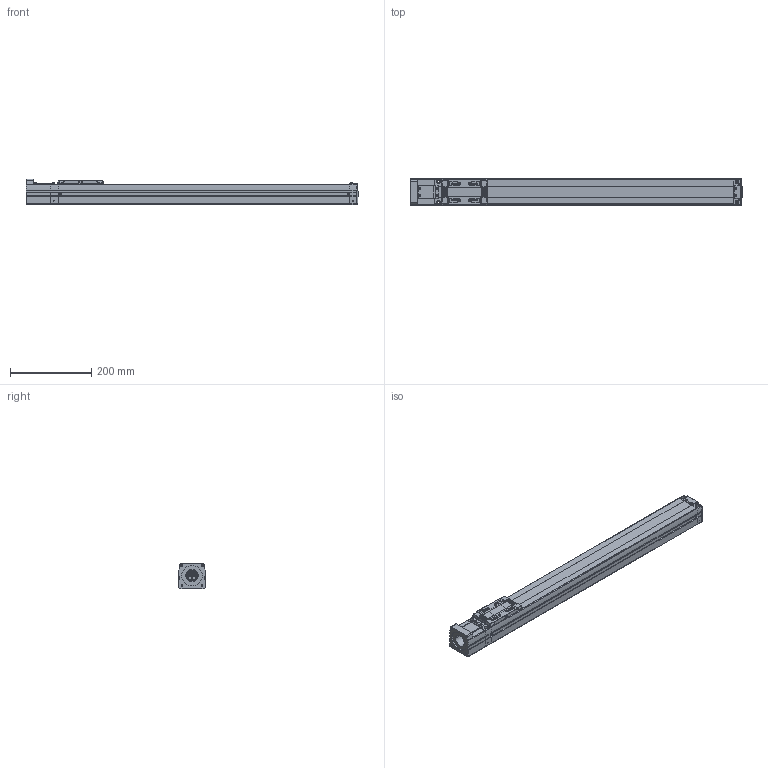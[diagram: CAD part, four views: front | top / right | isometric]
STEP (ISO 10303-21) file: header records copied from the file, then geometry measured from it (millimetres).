
FILE_DESCRIPTION(('STEP AP203'),'1');
FILE_NAME('Z:/Web/3D/SAN65/2012.ver/STP/600/SAN65ㅁㅁ-600S.stp','2014-06-13T06:42:22',(' '),(' '),'Spatial InterOp 3D',' ',' ');
FILE_SCHEMA(('CONFIG_CONTROL_DESIGN'));
Length unit declared in the file: millimetre
Products named in the file (56): 1; 2; 3; 4; 5; 6; 7; 8; 9; 10; 11; 12; 13; 14; 15; 16; 17; 18; 19; 20; 21; 22; 23; 24; 25; 26; 27; 28; 29; 30; 31; 32; 33; 34; 35; 36; 37; 38; 39; 40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
Bounding box: 816.15 x 67.13 x 62 mm (x, y, z)
Volume: 2579347 mm3; surface area: 299569.8 mm2
Topology: 56 solids, 56 shells, 2324 faces, 6111 edges, 3930 vertices
Faces by surface type: plane 1036, cylinder 874, cone 324, sphere 36, bspline 28, torus 20, extrusion 6
Full cylindrical faces by diameter (mm): 2.132 x1, 3.5 x2, 6 x2
Entity records: 77625 total; most frequent: CARTESIAN_POINT 16259, DIRECTION 12834, ORIENTED_EDGE 12014, EDGE_CURVE 6007, AXIS2_PLACEMENT_3D 4705, VERTEX_POINT 3929, VECTOR 3424, LINE 3418
